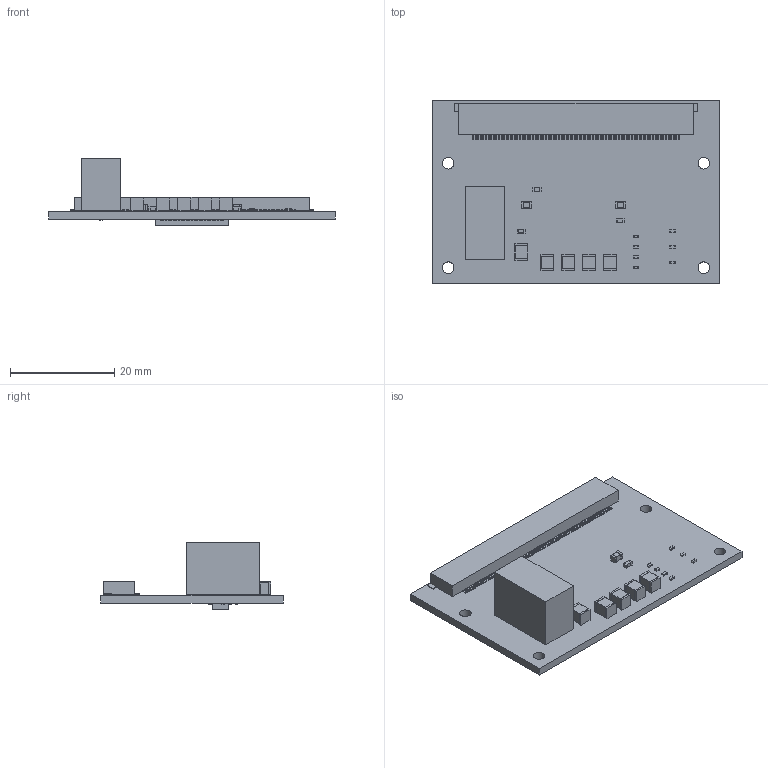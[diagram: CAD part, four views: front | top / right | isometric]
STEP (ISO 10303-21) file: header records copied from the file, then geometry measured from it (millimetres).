
FILE_DESCRIPTION(('KiCad electronic assembly'),'2;1');
FILE_NAME('display-adapter.step','2026-10-21T20:08:21',('Pcbnew'),( 'Kicad'),'Open CASCADE STEP processor 7.9','KiCad to STEP converter' ,'Unknown');
FILE_SCHEMA(('AUTOMOTIVE_DESIGN { 1 0 10303 214 1 1 1 1 }'));
Length unit declared in the file: millimetre
Products named in the file (16): display-adapter 1; R_0402_1005Metric; C_0603_1608Metric; FH28H-80S; Open CASCADE STEP translator 7.9 1; C_1210_3225Metric; TSR2-2433-trimmed; Open CASCADE STEP translator 7.9 5; C_0805_2012Metric; DF23C-50DP; Open CASCADE STEP translator 7.9 2; display-adapter_PCB
Assembly tree (28 placements, depth 3):
  display-adapter 1
    R_0402_1005Metric  x7
      R_0402_1005Metric
    C_0603_1608Metric  x3
      C_0603_1608Metric
    FH28H-80S
      Open CASCADE STEP translator 7.9 1
    C_1210_3225Metric  x5
      C_1210_3225Metric
    TSR2-2433-trimmed
      Open CASCADE STEP translator 7.9 5
    C_0805_2012Metric  x2
      C_0805_2012Metric
    DF23C-50DP
      Open CASCADE STEP translator 7.9 2
    display-adapter_PCB
Bounding box: 55 x 35 x 13 mm (x, y, z)
Volume: 4747.6 mm3; surface area: 6445.8 mm2
Topology: 156 solids, 156 shells, 1313 faces, 2909 edges, 1930 vertices
Faces by surface type: plane 1130, cylinder 183
Full cylindrical faces by diameter (mm): 1.1 x3, 2.2 x4
Entity records: 25936 total; most frequent: CARTESIAN_POINT 4317, DIRECTION 4079, ORIENTED_EDGE 3994, EDGE_CURVE 1997, LINE 1895, VECTOR 1895, VERTEX_POINT 1330, AXIS2_PLACEMENT_3D 1092
